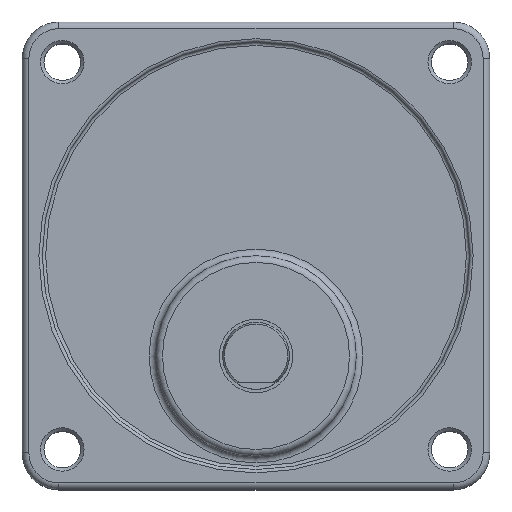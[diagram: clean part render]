
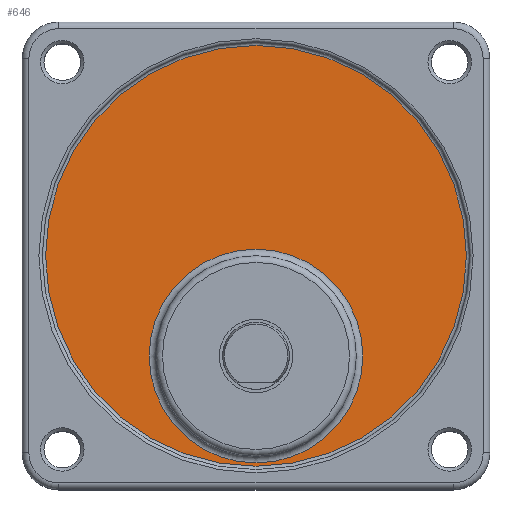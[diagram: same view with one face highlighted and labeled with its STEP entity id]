
A CAD part, top view. The second image highlights one B-rep face of the part: STEP entity #646.
In plain terms, the highlighted planar face has unit normal (0, 0, 1).
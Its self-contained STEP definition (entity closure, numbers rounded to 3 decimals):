
#595=CARTESIAN_POINT('',(51.,20.0,31.0));
#596=VERTEX_POINT('',#595);
#597=CARTESIAN_POINT('',(35.,20.0,31.0));
#598=DIRECTION('',(0.0,0.0,1.0));
#599=DIRECTION('',(-1.0,0.0,0.0));
#600=AXIS2_PLACEMENT_3D('',#597,#598,#599);
#601=CIRCLE('',#600,16.0);
#602=EDGE_CURVE('',#596,#596,#601,.T.);
#627=CARTESIAN_POINT('',(35.,35.0,31.0));
#628=DIRECTION('',(0.0,0.0,-1.0));
#629=DIRECTION('',(-1.0,0.0,0.0));
#630=AXIS2_PLACEMENT_3D('',#627,#628,#629);
#631=PLANE('',#630);
#632=CARTESIAN_POINT('',(66.5,35.,31.0));
#633=VERTEX_POINT('',#632);
#634=CARTESIAN_POINT('',(35.,35.0,31.0));
#635=DIRECTION('',(0.0,0.0,-1.0));
#636=DIRECTION('',(-1.0,0.0,0.0));
#637=AXIS2_PLACEMENT_3D('',#634,#635,#636);
#638=CIRCLE('',#637,31.5);
#639=EDGE_CURVE('',#633,#633,#638,.T.);
#640=ORIENTED_EDGE('',*,*,#639,.F.);
#641=EDGE_LOOP('',(#640));
#642=FACE_OUTER_BOUND('',#641,.T.);
#643=ORIENTED_EDGE('',*,*,#602,.F.);
#644=EDGE_LOOP('',(#643));
#645=FACE_BOUND('',#644,.T.);
#646=ADVANCED_FACE('',(#642,#645),#631,.F.);
